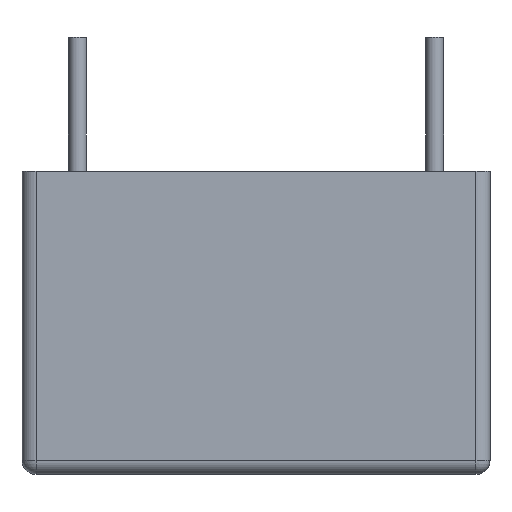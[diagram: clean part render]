
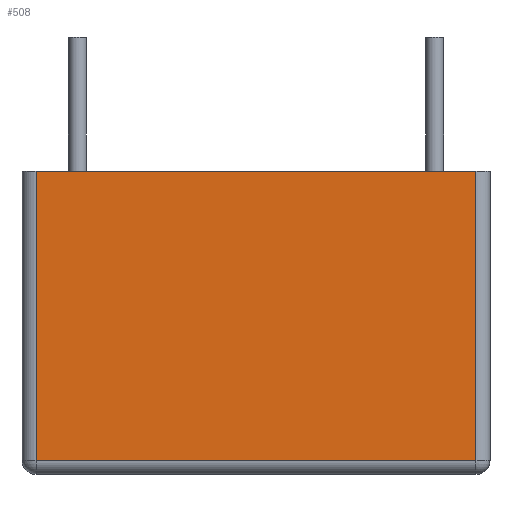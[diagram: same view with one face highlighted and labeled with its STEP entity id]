
A CAD part, left-side view. The second image highlights one B-rep face of the part: STEP entity #508.
In plain terms, the highlighted planar face has unit normal (-1, 0, 0).
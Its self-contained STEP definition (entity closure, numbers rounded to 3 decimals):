
#31=LINE('',#841,#63);
#34=LINE('',#846,#66);
#40=LINE('',#862,#72);
#50=LINE('',#881,#82);
#63=VECTOR('',#689,8.22);
#66=VECTOR('',#696,12.5);
#72=VECTOR('',#714,8.22);
#82=VECTOR('',#738,12.5);
#99=PLANE('',#576);
#149=FACE_OUTER_BOUND('',#199,.T.);
#199=EDGE_LOOP('',(#454,#455,#456,#457));
#259=VERTEX_POINT('',#822);
#263=VERTEX_POINT('',#834);
#265=VERTEX_POINT('',#839);
#268=VERTEX_POINT('',#858);
#311=EDGE_CURVE('',#265,#263,#31,.T.);
#314=EDGE_CURVE('',#263,#259,#34,.T.);
#322=EDGE_CURVE('',#259,#268,#40,.T.);
#333=EDGE_CURVE('',#265,#268,#50,.T.);
#454=ORIENTED_EDGE('',*,*,#311,.F.);
#455=ORIENTED_EDGE('',*,*,#333,.T.);
#456=ORIENTED_EDGE('',*,*,#322,.F.);
#457=ORIENTED_EDGE('',*,*,#314,.F.);
#508=ADVANCED_FACE('',(#149),#99,.T.);
#576=AXIS2_PLACEMENT_3D('',#883,#741,#742);
#689=DIRECTION('',(0.,0.,-1.));
#696=DIRECTION('',(0.,1.,0.));
#714=DIRECTION('',(0.,0.,1.));
#738=DIRECTION('',(0.,1.,0.));
#741=DIRECTION('center_axis',(-1.,0.,0.));
#742=DIRECTION('ref_axis',(0.,0.,1.));
#822=CARTESIAN_POINT('',(-11.9,6.25,0.4));
#834=CARTESIAN_POINT('',(-11.9,-6.25,0.4));
#839=CARTESIAN_POINT('',(-11.9,-6.25,8.62));
#841=CARTESIAN_POINT('',(-11.9,-6.25,0.));
#846=CARTESIAN_POINT('',(-11.9,-3.325,0.4));
#858=CARTESIAN_POINT('',(-11.9,6.25,8.62));
#862=CARTESIAN_POINT('',(-11.9,6.25,0.));
#881=CARTESIAN_POINT('',(-11.9,-6.65,8.62));
#883=CARTESIAN_POINT('Origin',(-11.9,-6.65,0.));
